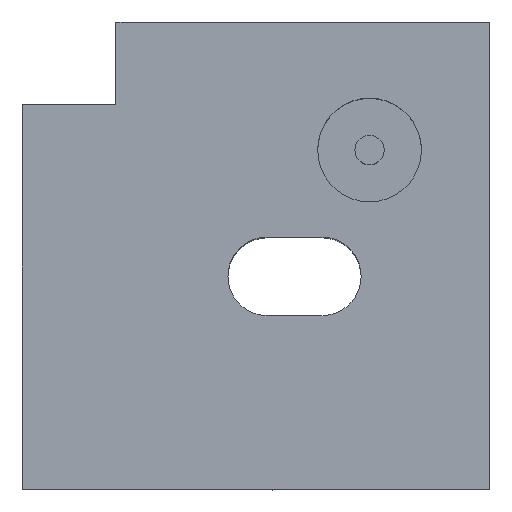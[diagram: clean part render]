
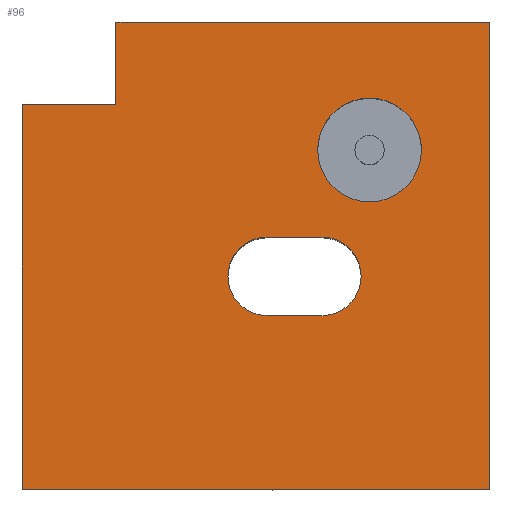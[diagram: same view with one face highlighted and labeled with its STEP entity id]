
A CAD part, top view. The second image highlights one B-rep face of the part: STEP entity #96.
In plain terms, the highlighted planar face has unit normal (0, 0, 1).
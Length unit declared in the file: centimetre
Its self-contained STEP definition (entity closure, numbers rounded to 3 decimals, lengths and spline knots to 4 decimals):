
#5 = CARTESIAN_POINT ( 'NONE',  ( 641.0828, 455.8086, 1000. ) ) ;
#14 = CARTESIAN_POINT ( 'NONE',  ( 200.4016, 822.8884, 1000. ) ) ;
#21 = DIRECTION ( 'NONE',  ( 0., 0., 1. ) ) ;
#29 = VERTEX_POINT ( 'NONE', #667 ) ;
#36 = LINE ( 'NONE', #1202, #417 ) ;
#39 = EDGE_CURVE ( 'NONE', #29, #490, #1446, .T. ) ;
#44 = VERTEX_POINT ( 'NONE', #441 ) ;
#51 = EDGE_LOOP ( 'NONE', ( #534, #903 ) ) ;
#55 = DIRECTION ( 'NONE',  ( 0., 0., 1. ) ) ;
#62 = AXIS2_PLACEMENT_3D ( 'NONE', #1148, #21, #1267 ) ;
#63 = CARTESIAN_POINT ( 'NONE',  ( 200.4016, 822.8884, 1000. ) ) ;
#76 = CARTESIAN_POINT ( 'NONE',  ( 523.9151, 539.8106, 1000. ) ) ;
#95 = VERTEX_POINT ( 'NONE', #571 ) ;
#96 = ADVANCED_FACE ( 'NONE', ( #915, #1157, #1362 ), #128, .T. ) ;
#117 = CARTESIAN_POINT ( 'NONE',  ( 523.9151, 455.8086, 1000. ) ) ;
#118 = DIRECTION ( 'NONE',  ( 0., 0., 1. ) ) ;
#121 = EDGE_CURVE ( 'NONE', #95, #1111, #241, .T. ) ;
#128 = PLANE ( 'NONE',  #900 ) ;
#137 = VECTOR ( 'NONE', #1193, 100. ) ;
#175 = ORIENTED_EDGE ( 'NONE', *, *, #1030, .T. ) ;
#182 = ORIENTED_EDGE ( 'NONE', *, *, #953, .F. ) ;
#183 = CARTESIAN_POINT ( 'NONE',  ( 641.0828, 539.8106, 1000. ) ) ;
#185 = AXIS2_PLACEMENT_3D ( 'NONE', #117, #1436, #1355 ) ;
#236 = DIRECTION ( 'NONE',  ( 0., 0., 1. ) ) ;
#240 = CARTESIAN_POINT ( 'NONE',  ( 200.4016, 1000., 1000. ) ) ;
#241 = LINE ( 'NONE', #930, #516 ) ;
#275 = CARTESIAN_POINT ( 'NONE',  ( 631.9268, 726.114, 1000. ) ) ;
#277 = VERTEX_POINT ( 'NONE', #1210 ) ;
#280 = LINE ( 'NONE', #640, #707 ) ;
#294 = VECTOR ( 'NONE', #309, 100. ) ;
#309 = DIRECTION ( 'NONE',  ( -1., 0., 0. ) ) ;
#310 = VERTEX_POINT ( 'NONE', #76 ) ;
#318 = EDGE_CURVE ( 'NONE', #1422, #310, #1459, .T. ) ;
#328 = AXIS2_PLACEMENT_3D ( 'NONE', #1082, #55, #630 ) ;
#364 = DIRECTION ( 'NONE',  ( 1., 0., 0. ) ) ;
#391 = VECTOR ( 'NONE', #1338, 100. ) ;
#398 = ORIENTED_EDGE ( 'NONE', *, *, #121, .T. ) ;
#406 = CARTESIAN_POINT ( 'NONE',  ( 641.0828, 371.8066, 1000. ) ) ;
#417 = VECTOR ( 'NONE', #493, 100. ) ;
#420 = ORIENTED_EDGE ( 'NONE', *, *, #39, .T. ) ;
#428 = EDGE_CURVE ( 'NONE', #1111, #1232, #807, .T. ) ;
#429 = ORIENTED_EDGE ( 'NONE', *, *, #318, .F. ) ;
#434 = ORIENTED_EDGE ( 'NONE', *, *, #428, .T. ) ;
#441 = CARTESIAN_POINT ( 'NONE',  ( 523.9151, 371.8066, 1000. ) ) ;
#445 = CIRCLE ( 'NONE', #185, 84.002 ) ;
#453 = EDGE_CURVE ( 'NONE', #1358, #909, #1161, .T. ) ;
#454 = DIRECTION ( 'NONE',  ( 0., 0., 1. ) ) ;
#462 = AXIS2_PLACEMENT_3D ( 'NONE', #5, #454, #364 ) ;
#490 = VERTEX_POINT ( 'NONE', #937 ) ;
#491 = VECTOR ( 'NONE', #764, 100. ) ;
#493 = DIRECTION ( 'NONE',  ( 1., 0., 0. ) ) ;
#516 = VECTOR ( 'NONE', #1051, 100. ) ;
#534 = ORIENTED_EDGE ( 'NONE', *, *, #453, .F. ) ;
#549 = ORIENTED_EDGE ( 'NONE', *, *, #796, .T. ) ;
#560 = AXIS2_PLACEMENT_3D ( 'NONE', #925, #236, #814 ) ;
#571 = CARTESIAN_POINT ( 'NONE',  ( 1000., 1000., 1000. ) ) ;
#619 = EDGE_LOOP ( 'NONE', ( #175, #420, #1313, #549, #398, #434 ) ) ;
#623 = DIRECTION ( 'NONE',  ( 1., 0., 0. ) ) ;
#625 = ORIENTED_EDGE ( 'NONE', *, *, #730, .F. ) ;
#630 = DIRECTION ( 'NONE',  ( 1., 0., 0. ) ) ;
#640 = CARTESIAN_POINT ( 'NONE',  ( 0., 0., 1000. ) ) ;
#651 = ORIENTED_EDGE ( 'NONE', *, *, #916, .F. ) ;
#667 = CARTESIAN_POINT ( 'NONE',  ( 0., 822.8884, 1000. ) ) ;
#707 = VECTOR ( 'NONE', #623, 100. ) ;
#730 = EDGE_CURVE ( 'NONE', #44, #1279, #36, .T. ) ;
#735 = ORIENTED_EDGE ( 'NONE', *, *, #1156, .F. ) ;
#764 = DIRECTION ( 'NONE',  ( -1., 0., 0. ) ) ;
#787 = CARTESIAN_POINT ( 'NONE',  ( 854.0333, 726.114, 1000. ) ) ;
#789 = LINE ( 'NONE', #1328, #491 ) ;
#796 = EDGE_CURVE ( 'NONE', #277, #95, #1299, .T. ) ;
#807 = LINE ( 'NONE', #14, #1251 ) ;
#814 = DIRECTION ( 'NONE',  ( 1., 0., 0. ) ) ;
#844 = EDGE_CURVE ( 'NONE', #490, #277, #280, .T. ) ;
#859 = CARTESIAN_POINT ( 'NONE',  ( 1000., 1000., 1000. ) ) ;
#883 = CARTESIAN_POINT ( 'NONE',  ( 0., 1000., 1000. ) ) ;
#900 = AXIS2_PLACEMENT_3D ( 'NONE', #1144, #118, #1047 ) ;
#903 = ORIENTED_EDGE ( 'NONE', *, *, #1174, .F. ) ;
#909 = VERTEX_POINT ( 'NONE', #275 ) ;
#915 = FACE_BOUND ( 'NONE', #51, .T. ) ;
#916 = EDGE_CURVE ( 'NONE', #1279, #1194, #977, .T. ) ;
#917 = DIRECTION ( 'NONE',  ( 0., -1., 0. ) ) ;
#922 = CARTESIAN_POINT ( 'NONE',  ( 725.0848, 455.8086, 1000. ) ) ;
#925 = CARTESIAN_POINT ( 'NONE',  ( 742.98, 726.114, 1000. ) ) ;
#930 = CARTESIAN_POINT ( 'NONE',  ( 0., 1000., 1000. ) ) ;
#932 = EDGE_LOOP ( 'NONE', ( #182, #429, #735, #651, #625 ) ) ;
#937 = CARTESIAN_POINT ( 'NONE',  ( 0., 0., 1000. ) ) ;
#953 = EDGE_CURVE ( 'NONE', #310, #44, #445, .T. ) ;
#977 = CIRCLE ( 'NONE', #328, 84.002 ) ;
#1023 = CARTESIAN_POINT ( 'NONE',  ( 641.0828, 539.8106, 1000. ) ) ;
#1030 = EDGE_CURVE ( 'NONE', #1232, #29, #789, .T. ) ;
#1047 = DIRECTION ( 'NONE',  ( 1., 0., 0. ) ) ;
#1051 = DIRECTION ( 'NONE',  ( -1., 0., 0. ) ) ;
#1082 = CARTESIAN_POINT ( 'NONE',  ( 641.0828, 455.8086, 1000. ) ) ;
#1111 = VERTEX_POINT ( 'NONE', #240 ) ;
#1144 = CARTESIAN_POINT ( 'NONE',  ( 0., 0., 1000. ) ) ;
#1148 = CARTESIAN_POINT ( 'NONE',  ( 742.98, 726.114, 1000. ) ) ;
#1156 = EDGE_CURVE ( 'NONE', #1194, #1422, #1390, .T. ) ;
#1157 = FACE_BOUND ( 'NONE', #932, .T. ) ;
#1161 = CIRCLE ( 'NONE', #560, 111.0532 ) ;
#1174 = EDGE_CURVE ( 'NONE', #909, #1358, #1411, .T. ) ;
#1193 = DIRECTION ( 'NONE',  ( 0., 1., 0. ) ) ;
#1194 = VERTEX_POINT ( 'NONE', #922 ) ;
#1202 = CARTESIAN_POINT ( 'NONE',  ( 523.9151, 371.8066, 1000. ) ) ;
#1210 = CARTESIAN_POINT ( 'NONE',  ( 1000., 0., 1000. ) ) ;
#1232 = VERTEX_POINT ( 'NONE', #63 ) ;
#1251 = VECTOR ( 'NONE', #917, 100. ) ;
#1267 = DIRECTION ( 'NONE',  ( 1., 0., 0. ) ) ;
#1279 = VERTEX_POINT ( 'NONE', #406 ) ;
#1299 = LINE ( 'NONE', #859, #137 ) ;
#1313 = ORIENTED_EDGE ( 'NONE', *, *, #844, .T. ) ;
#1328 = CARTESIAN_POINT ( 'NONE',  ( 0., 822.8884, 1000. ) ) ;
#1338 = DIRECTION ( 'NONE',  ( 0., -1., 0. ) ) ;
#1355 = DIRECTION ( 'NONE',  ( 1., 0., 0. ) ) ;
#1358 = VERTEX_POINT ( 'NONE', #787 ) ;
#1362 = FACE_OUTER_BOUND ( 'NONE', #619, .T. ) ;
#1390 = CIRCLE ( 'NONE', #462, 84.002 ) ;
#1411 = CIRCLE ( 'NONE', #62, 111.0532 ) ;
#1422 = VERTEX_POINT ( 'NONE', #1023 ) ;
#1436 = DIRECTION ( 'NONE',  ( 0., 0., 1. ) ) ;
#1446 = LINE ( 'NONE', #883, #391 ) ;
#1459 = LINE ( 'NONE', #183, #294 ) ;
